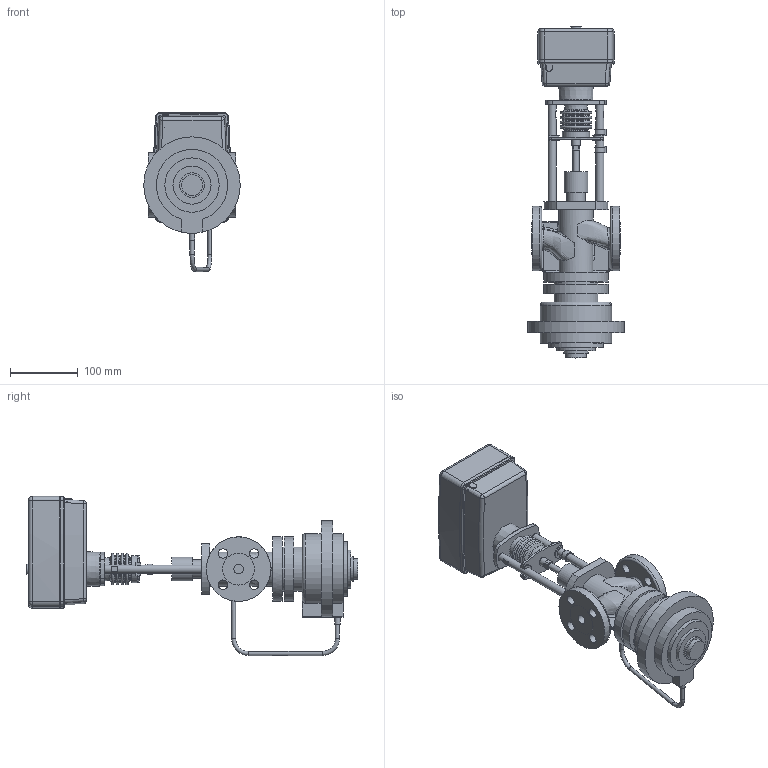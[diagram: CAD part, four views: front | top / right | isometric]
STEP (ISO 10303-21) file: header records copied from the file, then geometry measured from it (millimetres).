
FILE_DESCRIPTION(/* description */ ('Unknown'),/* implementation_level */ '2;1');
FILE_NAME(/* name */ 'Клапан TVC-15-101',/* time_stamp */ '2021-11-23T11:27:33+03:00',/* author */ ('Unknown'),/* organization */ ('Unknown'),/* preprocessor_version */ 'ST-DEVELOPER v16.7',/* originating_system */ 'DEX',/* authorisation */ $);
FILE_SCHEMA (('AUTOMOTIVE_DESIGN {1 0 10303 214 3 1 1}'));
Length unit declared in the file: millimetre
Products named in the file (1): 抔黽鳧 TVC-15-101
Bounding box: 141.97 x 488.71 x 234.22 mm (x, y, z)
Volume: 3128904.2 mm3; surface area: 280996.7 mm2
Topology: 1 solids, 3 shells, 429 faces, 1104 edges, 703 vertices
Faces by surface type: plane 184, cylinder 113, bspline 55, torus 47, cone 22, sphere 8
Full cylindrical faces by diameter (mm): 4 x1, 6 x3, 8 x1, 9.171 x1, 12.002 x4, 13 x1, 14 x10, 15 x1, 18 x2, 27 x1, 30.68 x1, 33.4 x1, 33.972 x1, 35 x1, 36 x1, 40 x1, 47 x2, 50.1 x1, 56 x1, 64.624 x2, 80 x1, 95 x4, 142 x1
Entity records: 20271 total; most frequent: CARTESIAN_POINT 7729, ORIENTED_EDGE 1934, DIRECTION 1884, EDGE_CURVE 967, AXIS2_PLACEMENT_3D 754, VERTEX_POINT 653, EDGE_LOOP 564, FACE_BOUND 564
